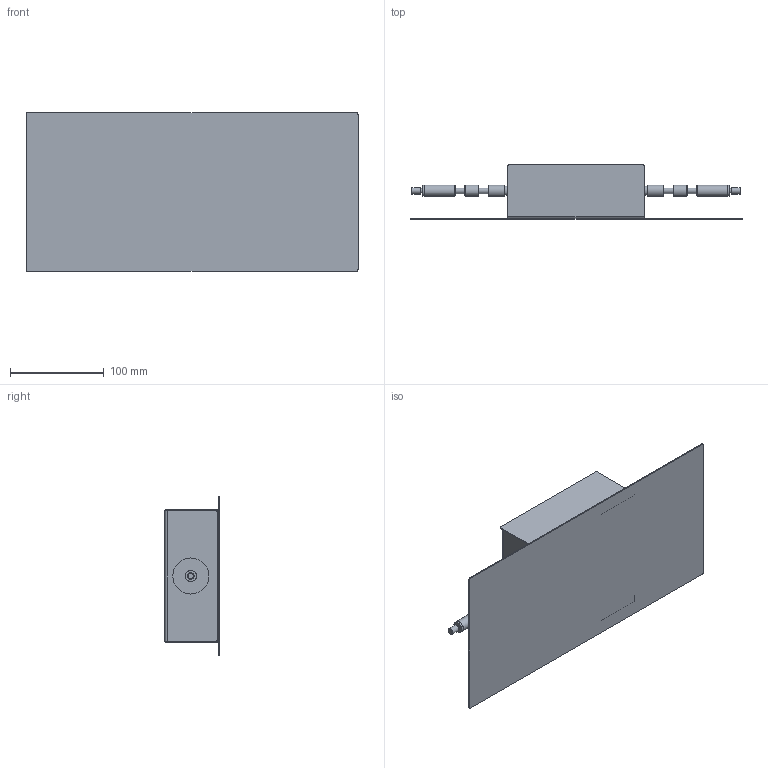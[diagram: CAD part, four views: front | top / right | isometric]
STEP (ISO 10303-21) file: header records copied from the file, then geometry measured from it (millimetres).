
FILE_DESCRIPTION(/* description */ (''),/* implementation_level */ '2;1');
FILE_NAME(/* name */ 'WALL - CEILING ROSE.stp',/* time_stamp */ '2023-02-23T15:46:12+01:00',/* author */ ('n.bisotti'),/* organization */ (''),/* preprocessor_version */ 'ST-DEVELOPER v19.2',/* originating_system */ 'Autodesk Inventor 2023',/* authorisation */ '');
FILE_SCHEMA (('AUTOMOTIVE_DESIGN { 1 0 10303 214 3 1 1 }'));
Length unit declared in the file: millimetre
Products named in the file (1): Parte1
Bounding box: 355 x 58.5 x 170 mm (x, y, z)
Volume: 254138.7 mm3; surface area: 311263.6 mm2
Topology: 15 solids, 15 shells, 361 faces, 816 edges, 527 vertices
Faces by surface type: plane 218, cylinder 91, cone 28, bspline 24
Full cylindrical faces by diameter (mm): 2.25 x3, 4 x2, 4.917 x4, 5 x4, 5.25 x2, 6 x4, 7 x2, 7.11 x2, 8 x2, 8.917 x2, 9.5 x2, 10 x2, 12 x8, 38.5 x2, 47 x2
Entity records: 10594 total; most frequent: CARTESIAN_POINT 2016, DIRECTION 1653, ORIENTED_EDGE 1630, EDGE_CURVE 815, LINE 557, VECTOR 557, AXIS2_PLACEMENT_3D 548, VERTEX_POINT 527
